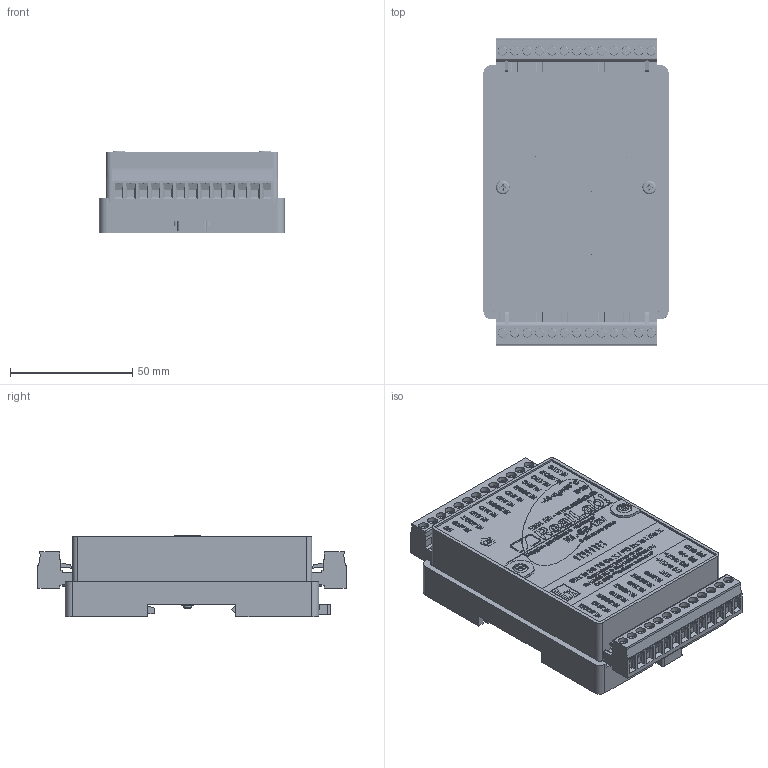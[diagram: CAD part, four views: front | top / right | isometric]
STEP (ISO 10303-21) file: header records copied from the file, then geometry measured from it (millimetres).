
FILE_DESCRIPTION(('STEP AP214'), '1');
FILE_NAME('沓劌錪', '', ('UNSPECIFIED'), ('UNSPECIFIED'), 'C3D Converter', 'C3D Toolkit', '');
FILE_SCHEMA(('AUTOMOTIVE_DESIGN { 1 0 10303 214 3 1 1}'));
Length unit declared in the file: millimetre
Bounding box: 75.8 x 126.21 x 33.5 mm (x, y, z)
Volume: 85379.7 mm3; surface area: 90083.9 mm2
Topology: 32 solids, 32 shells, 8072 faces, 21938 edges, 14505 vertices
Faces by surface type: plane 3998, extrusion 3385, cylinder 502, torus 118, cone 68, bspline 1
Full cylindrical faces by diameter (mm): 1.4 x26, 2.5 x4, 3 x30, 3.38 x2, 3.6 x4, 3.95 x26, 4 x2, 5.6 x2, 6.3 x2, 6.4 x2, 8 x2
Entity records: 350845 total; most frequent: CARTESIAN_POINT 96300, ORIENTED_EDGE 43506, DIRECTION 28377, EDGE_CURVE 21753, VECTOR 16471, VERTEX_POINT 14504, LINE 13086, B_SPLINE_CURVE_WITH_KNOTS 10752
